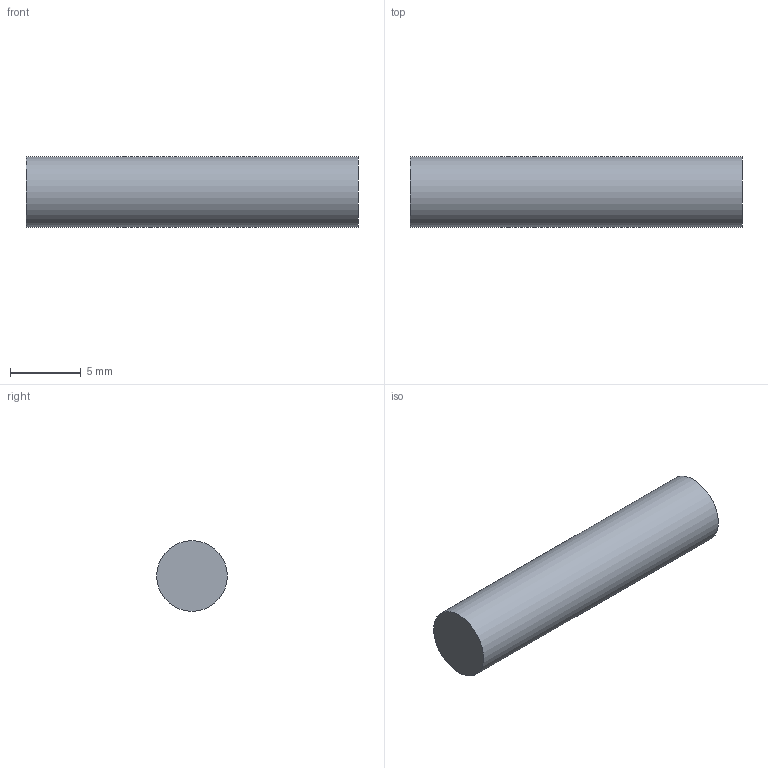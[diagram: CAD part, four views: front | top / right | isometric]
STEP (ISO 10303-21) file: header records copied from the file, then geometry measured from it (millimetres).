
FILE_DESCRIPTION(('Open CASCADE Model'),'2;1');
FILE_NAME('Open CASCADE Shape Model','2026-10-16T02:10:56',('Author'),( 'Open CASCADE'),'Open CASCADE STEP processor 7.9','Open CASCADE 7.9' ,'Unknown');
FILE_SCHEMA(('AUTOMOTIVE_DESIGN { 1 0 10303 214 1 1 1 1 }'));
Length unit declared in the file: millimetre
Products named in the file (1): Open CASCADE STEP translator 7.9 8
Bounding box: 23.5 x 5 x 5 mm (x, y, z)
Volume: 461.4 mm3; surface area: 408.4 mm2
Topology: 1 solids, 1 shells, 3 faces, 3 edges, 2 vertices
Faces by surface type: plane 2, cylinder 1
Full cylindrical faces by diameter (mm): 5 x1
Entity records: 108 total; most frequent: DIRECTION 19, CARTESIAN_POINT 15, AXIS2_PLACEMENT_3D 6, ORIENTED_EDGE 6, PCURVE 6, DEFINITIONAL_REPRESENTATION 6, LINE 5, VECTOR 5
